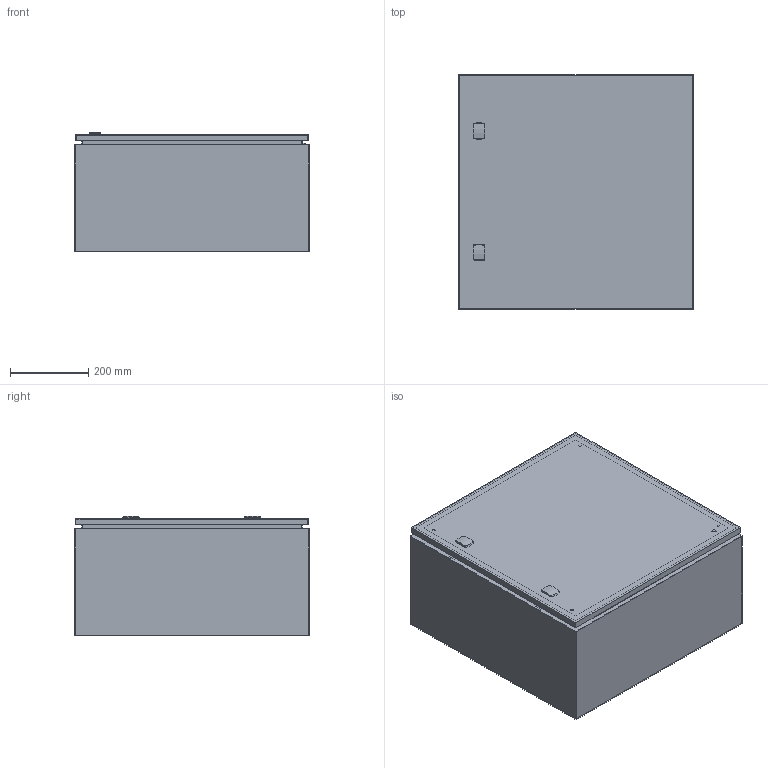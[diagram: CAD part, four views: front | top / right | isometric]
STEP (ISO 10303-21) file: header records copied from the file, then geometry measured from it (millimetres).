
FILE_DESCRIPTION(/* description */ ('STEP AP203'),/* implementation_level */ '2;1');
FILE_NAME(/* name */ 'ASR0606030(0)',/* time_stamp */ '2024-03-08T08:21:06+01:00',/* author */ ('License CC BY-ND 4.0'),/* organization */ ('CADENAS'),/* preprocessor_version */ 'ST-DEVELOPER v19.3',/* originating_system */ 'PARTsolutions',/* authorisation */ ' ');
FILE_SCHEMA (('CONFIG_CONTROL_DESIGN'));
Length unit declared in the file: millimetre
Products named in the file (6): ASR0606030(0); ASR0606030(0)_P1; MMSH06SS(0)_right; ADPS06060(0); ALLS503_304(0,0,27.3); AMP06060_MPL(0)
Assembly tree (7 placements, depth 2):
  ASR0606030(0)
    ASR0606030(0)_P1
    MMSH06SS(0)_right  x2
    ADPS06060(0)
    ALLS503_304(0,0,27.3)  x2
    AMP06060_MPL(0)
Bounding box: 600 x 600 x 306.7 mm (x, y, z)
Volume: 3347505.1 mm3; surface area: 3683506.3 mm2
Topology: 7 solids, 7 shells, 371 faces, 881 edges, 573 vertices
Faces by surface type: plane 247, cylinder 102, cone 20, torus 2
Full cylindrical faces by diameter (mm): 4.9 x2, 6 x4, 7 x4, 7.22 x1, 7.25 x5, 8 x6, 9 x3, 9.08 x5, 16 x6, 18 x2, 27 x2
Entity records: 8497 total; most frequent: CARTESIAN_POINT 1411, DIRECTION 1359, ORIENTED_EDGE 1232, EDGE_CURVE 616, AXIS2_PLACEMENT_3D 467, VERTEX_POINT 429, LINE 425, VECTOR 425
